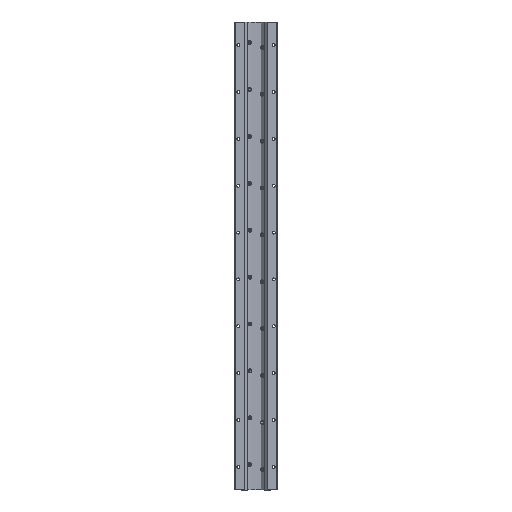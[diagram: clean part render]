
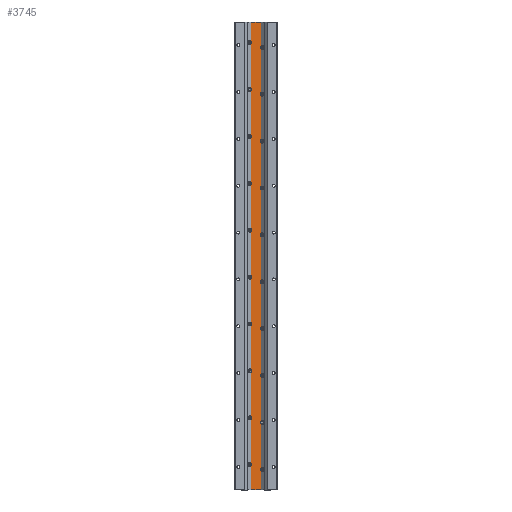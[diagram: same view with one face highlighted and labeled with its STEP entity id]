
A CAD part, front view. The second image highlights one B-rep face of the part: STEP entity #3745.
In plain terms, the highlighted planar face has unit normal (0, -1, 0).
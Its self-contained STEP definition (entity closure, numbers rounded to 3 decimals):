
#3696 = ORIENTED_EDGE ( 'NONE', *, *, #9408, .F. ) ;
#3719 = EDGE_CURVE ( 'NONE', #9264, #8993, #12097, .T. ) ;
#3720 = ORIENTED_EDGE ( 'NONE', *, *, #8992, .T. ) ;
#3725 = ORIENTED_EDGE ( 'NONE', *, *, #9201, .F. ) ;
#3745 = ADVANCED_FACE ( 'NONE', ( #7981 ), #7980, .T. ) ;
#3797 = EDGE_LOOP ( 'NONE', ( #3696, #3725, #3875, #3720 ) ) ;
#3875 = ORIENTED_EDGE ( 'NONE', *, *, #3719, .T. ) ;
#6501 = CARTESIAN_POINT ( 'NONE',  ( 11.015, 19., -996. ) ) ;
#6502 = DIRECTION ( 'NONE',  ( 0., 0., 1. ) ) ;
#6503 = VECTOR ( 'NONE', #6502, 1000. ) ;
#6504 = CARTESIAN_POINT ( 'NONE',  ( 11.015, 19., -996. ) ) ;
#6505 = LINE ( 'NONE', #6504, #6503 ) ;
#6524 = CARTESIAN_POINT ( 'NONE',  ( 11.015, 19., 0. ) ) ;
#6628 = DIRECTION ( 'NONE',  ( 0., 0., 1. ) ) ;
#6629 = VECTOR ( 'NONE', #6628, 1000. ) ;
#6697 = CARTESIAN_POINT ( 'NONE',  ( -11.015, 19., -996. ) ) ;
#6744 = CARTESIAN_POINT ( 'NONE',  ( -11.015, 19., -996. ) ) ;
#6745 = LINE ( 'NONE', #6744, #6629 ) ;
#7053 = DIRECTION ( 'NONE',  ( 1., 0., 0. ) ) ;
#7054 = VECTOR ( 'NONE', #7053, 1000. ) ;
#7055 = CARTESIAN_POINT ( 'NONE',  ( -11.015, 19., 0. ) ) ;
#7056 = LINE ( 'NONE', #7055, #7054 ) ;
#7228 = CARTESIAN_POINT ( 'NONE',  ( -11.015, 19., 0. ) ) ;
#7967 = DIRECTION ( 'NONE',  ( 0., 0., -1. ) ) ;
#7968 = DIRECTION ( 'NONE',  ( 0., -1., 0. ) ) ;
#7969 = CARTESIAN_POINT ( 'NONE',  ( -11.015, 19., -996. ) ) ;
#7970 = AXIS2_PLACEMENT_3D ( 'NONE', #7969, #7968, #7967 ) ;
#7980 = PLANE ( 'NONE',  #7970 ) ;
#7981 = FACE_OUTER_BOUND ( 'NONE', #3797, .T. ) ;
#8982 = VERTEX_POINT ( 'NONE', #6524 ) ;
#8992 = EDGE_CURVE ( 'NONE', #8993, #8982, #6505, .T. ) ;
#8993 = VERTEX_POINT ( 'NONE', #6501 ) ;
#9201 = EDGE_CURVE ( 'NONE', #9264, #9352, #6745, .T. ) ;
#9264 = VERTEX_POINT ( 'NONE', #6697 ) ;
#9352 = VERTEX_POINT ( 'NONE', #7228 ) ;
#9408 = EDGE_CURVE ( 'NONE', #9352, #8982, #7056, .T. ) ;
#12094 = DIRECTION ( 'NONE',  ( 1., 0., 0. ) ) ;
#12095 = VECTOR ( 'NONE', #12094, 1000. ) ;
#12096 = CARTESIAN_POINT ( 'NONE',  ( -11.015, 19., -996. ) ) ;
#12097 = LINE ( 'NONE', #12096, #12095 ) ;
